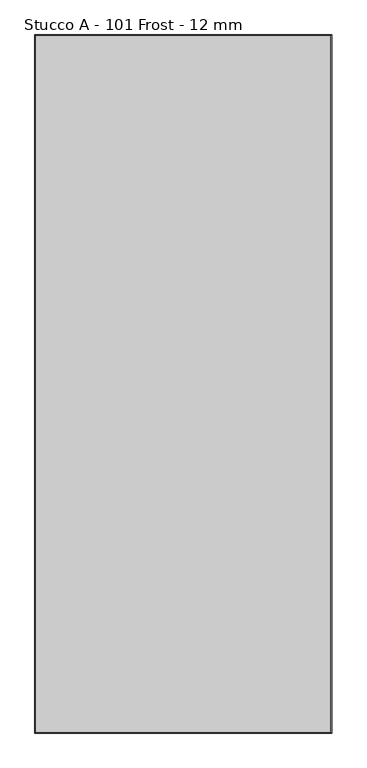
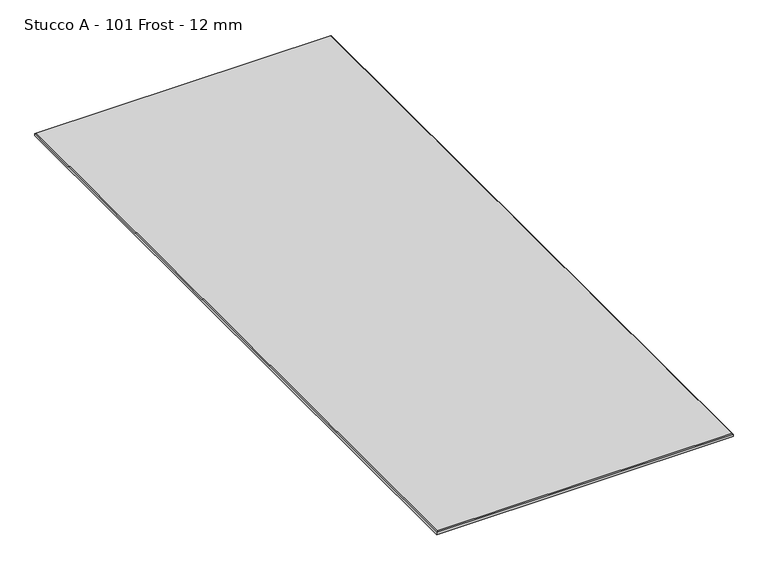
"""IFC4 building model written with IfcOpenShell, lengths in millimetres: proxy geometry, Stucco A - 101 Frost - 12 mm."""

from ifc_helpers import new_model, si_unit, origin, place, context, project, spatial, faceted_brep, source, transform, mapped, element, save


def stucco_a_101_frost_12_mm_5309bba6(model_context):
    return source(origin(), model_context, "Body", "Brep", [
        faceted_brep([(-606.425, 1368.425, 12.0054687), (-606.425, -1368.425, 12.0054687), (555.625, -1368.425, 12.0054687), (555.625, 1368.425, 12.0054687), (558.8, 1371.6, 0.0), (558.8, -1371.6, 0.0), (-609.6, -1371.6, 0.0), (-609.6, 1371.6, 0.0), (-609.6, 1371.6, 8.8304688), (558.8, 1371.6, 8.8304687), (-609.6, -1371.6, 8.8304688), (558.8, -1371.6, 8.8304687)], [[[0, 1, 2, 3]], [[4, 5, 6, 7]], [[4, 7, 8, 9]], [[7, 6, 10, 8]], [[6, 5, 11, 10]], [[5, 4, 9, 11]], [[10, 1, 0, 8]], [[1, 10, 11, 2]], [[2, 11, 9, 3]], [[8, 0, 3, 9]]]),
    ])


if __name__ == "__main__":
    model = new_model("IFC4")
    model_context = context("Model", 3, world=origin())
    ifc_project = project(units=[si_unit("LENGTHUNIT", "METRE", prefix="MILLI")], contexts=[model_context])
    site = spatial("IfcSite", under=ifc_project)
    building = spatial("IfcBuilding", under=site)
    placement = place(None, origin())
    stucco_a_101_frost_12_mm_shape = stucco_a_101_frost_12_mm_5309bba6(model_context)
    element("IfcBuildingElementProxy", 1, Name="Stucco A - 101 Frost - 12 mm", ObjectType="Stucco A - 101 Frost - 12 mm", at=placement, inside=building, context=model_context, shape_type="MappedRepresentation", body=[
        mapped(stucco_a_101_frost_12_mm_shape, transform((0.0, 0.0, 0.0), x_axis=(1.0, 0.0, 0.0), y_axis=(0.0, 1.0, 0.0), z_axis=(0.0, 0.0, 1.0))),
    ])
    save(model, "model.ifc")
